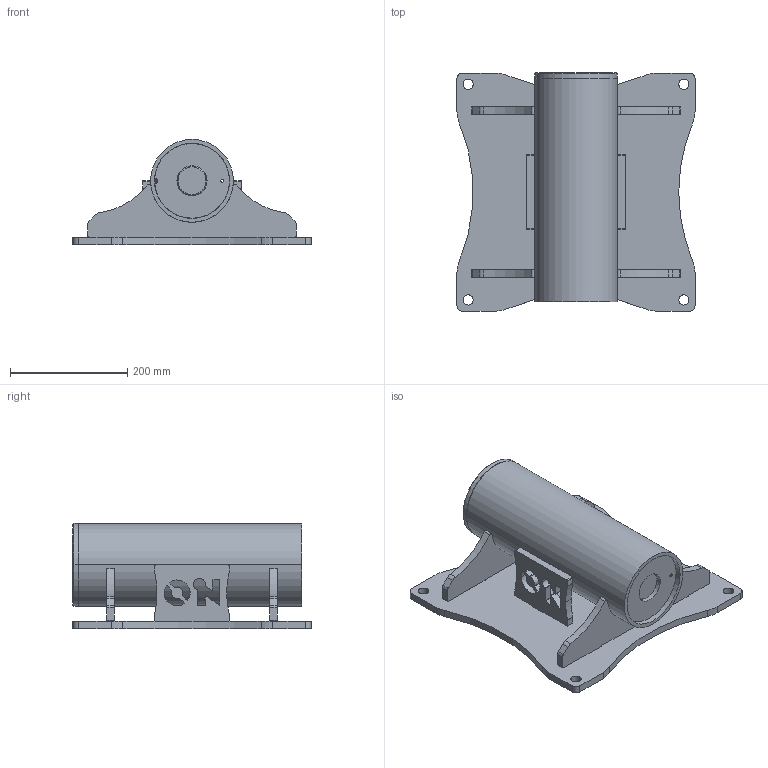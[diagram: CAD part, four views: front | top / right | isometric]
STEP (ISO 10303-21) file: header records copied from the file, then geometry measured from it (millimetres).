
FILE_DESCRIPTION (( 'STEP AP203' ), '1' );
FILE_NAME ('OZWALL4.STEP', '2022-03-02T20:36:15', ( '' ), ( '' ), 'SwSTEP 2.0', 'SolidWorks 2021', '' );
FILE_SCHEMA (( 'CONFIG_CONTROL_DESIGN' ));
Length unit declared in the file: inch
Products named in the file (10): SWB2308; OZWALL4; SWB2307; SWB2303; SXB2004; SWB2300; SXB2005; SXB2102; SWB2306; SWB2301
Assembly tree (10 placements, depth 3):
  OZWALL4
    SWB2300
      SWB2301
      SWB2306  x2
      SWB2308
      SWB2307
      SWB2303
      SXB2102
      SXB2004
    SXB2005
Bounding box: 406.4 x 406.4 x 179.4 mm (x, y, z)
Volume: 4235422.7 mm3; surface area: 952365.8 mm2
Topology: 9 solids, 9 shells, 323 faces, 884 edges, 582 vertices
Faces by surface type: cylinder 174, plane 127, cone 16, torus 6
Entity records: 10455 total; most frequent: DIRECTION 1731, CARTESIAN_POINT 1620, ORIENTED_EDGE 1576, EDGE_CURVE 788, AXIS2_PLACEMENT_3D 643, VERTEX_POINT 518, LINE 445, VECTOR 445
